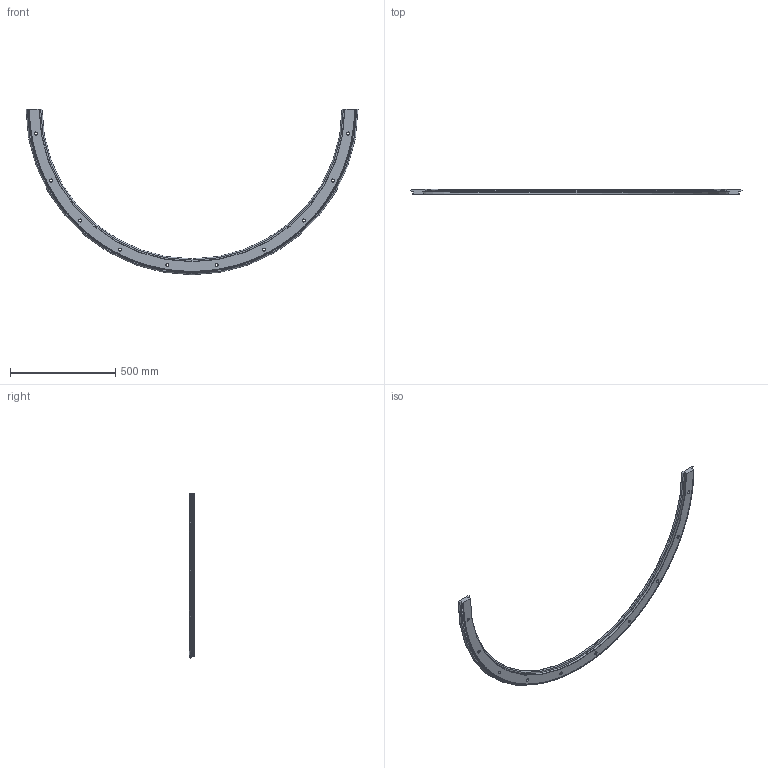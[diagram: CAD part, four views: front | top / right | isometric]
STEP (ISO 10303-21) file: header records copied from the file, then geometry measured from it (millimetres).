
FILE_DESCRIPTION( ( 'STEP AP203' ), '1' );
FILE_NAME( 'p:/temp/worker_26/temp/exporttempdir_4444_12_TYuhD/format_0/R76 1501 R180 P.stp', '2021-07-19T05:46:08', ( 'License CC BY-ND 4.0' ), ( 'CADENAS' ), ' ', 'PARTsolutions', ' ' );
FILE_SCHEMA( ( 'CONFIG_CONTROL_DESIGN' ) );
Length unit declared in the file: millimetre
Products named in the file (1): _R76 1501 R180 P
Bounding box: 1576.87 x 24 x 786.44 mm (x, y, z)
Volume: 3117478.6 mm3; surface area: 518955.1 mm2
Topology: 1 solids, 1 shells, 3152 faces, 8378 edges, 5238 vertices
Faces by surface type: plane 2082, cylinder 538, cone 530, torus 2
Full cylindrical faces by diameter (mm): 14 x10, 20 x10
Entity records: 98000 total; most frequent: CARTESIAN_POINT 19882, ORIENTED_EDGE 16696, DIRECTION 16252, EDGE_CURVE 8348, AXIS2_PLACEMENT_3D 5795, VERTEX_POINT 5239, LINE 4662, VECTOR 4662
